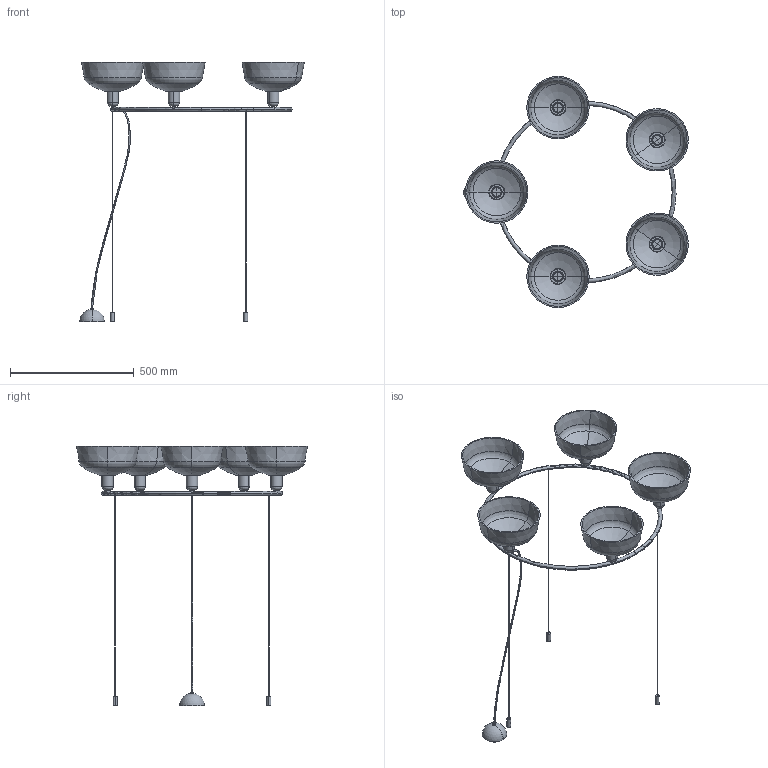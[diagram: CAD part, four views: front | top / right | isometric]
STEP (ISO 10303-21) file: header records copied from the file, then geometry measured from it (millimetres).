
FILE_DESCRIPTION(/* description */ (''),/* implementation_level */ '2;1');
FILE_NAME(/* name */ '20343-119-5L.step',/* time_stamp */ '2024-06-04T08:58:47+02:00',/* author */ ('RenataManzini'),/* organization */ (''),/* preprocessor_version */ 'ST-DEVELOPER v20',/* originating_system */ 'AutoCAD Mechanical',/* authorisation */ '');
FILE_SCHEMA (('AUTOMOTIVE_DESIGN { 1 0 10303 214 3 1 1 }'));
Length unit declared in the file: millimetre
Products named in the file (2): Product; TATAWIN_COLGANTE_CIRCULAR - Florón Multiple-456111-_3D_
Assembly tree (1 placements, depth 2):
  Product
    TATAWIN_COLGANTE_CIRCULAR - Florón Multiple-456111-_3D_
Bounding box: 906.1 x 932.87 x 1046.02 mm (x, y, z)
Volume: 3153400.3 mm3; surface area: 1382188.5 mm2
Topology: 15 solids, 16 shells, 387 faces, 797 edges, 445 vertices
Faces by surface type: plane 159, cylinder 130, torus 42, bspline 32, cone 20, sphere 4
Entity records: 19477 total; most frequent: CARTESIAN_POINT 11397, DIRECTION 1767, ORIENTED_EDGE 1588, EDGE_CURVE 794, AXIS2_PLACEMENT_3D 728, VERTEX_POINT 440, EDGE_LOOP 404, FACE_OUTER_BOUND 387
